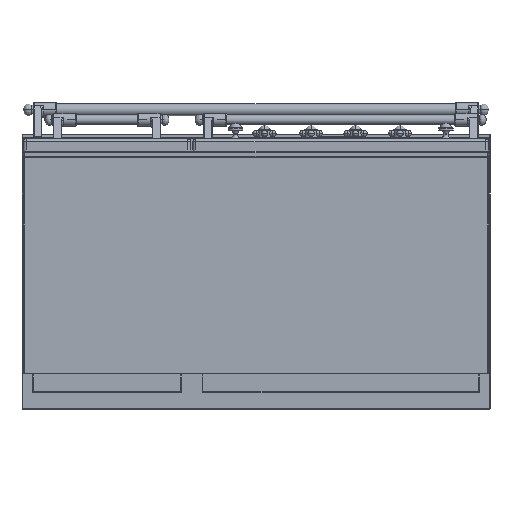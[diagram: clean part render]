
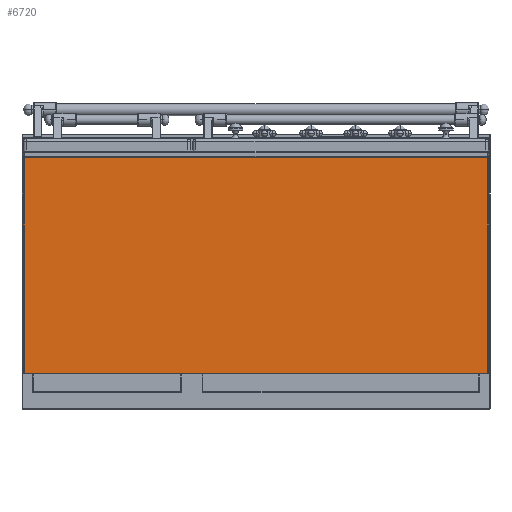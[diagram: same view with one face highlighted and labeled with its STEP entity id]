
A CAD part, front view. The second image highlights one B-rep face of the part: STEP entity #6720.
In plain terms, the highlighted planar face has unit normal (0, -1, 0).
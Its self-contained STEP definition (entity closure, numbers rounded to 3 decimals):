
#6335=DIRECTION('',(0.,0.,1.));
#6336=VECTOR('',#6335,508.);
#6337=CARTESIAN_POINT('',(547.,0.,-254.));
#6338=LINE('',#6337,#6336);
#6339=DIRECTION('',(-1.,0.,0.));
#6340=VECTOR('',#6339,1094.);
#6341=CARTESIAN_POINT('',(547.,0.,-254.));
#6342=LINE('',#6341,#6340);
#6343=DIRECTION('',(0.,0.,-1.));
#6344=VECTOR('',#6343,508.);
#6345=CARTESIAN_POINT('',(-547.,0.,254.));
#6346=LINE('',#6345,#6344);
#6347=DIRECTION('',(-1.,0.,0.));
#6348=VECTOR('',#6347,1094.);
#6349=CARTESIAN_POINT('',(547.,0.,254.));
#6350=LINE('',#6349,#6348);
#6455=CARTESIAN_POINT('',(547.,0.,-254.));
#6456=CARTESIAN_POINT('',(547.,0.,254.));
#6457=VERTEX_POINT('',#6455);
#6458=VERTEX_POINT('',#6456);
#6461=CARTESIAN_POINT('',(-547.,0.,-254.));
#6462=VERTEX_POINT('',#6461);
#6469=CARTESIAN_POINT('',(-547.,0.,254.));
#6470=VERTEX_POINT('',#6469);
#6708=CARTESIAN_POINT('',(-549.,0.,-256.));
#6709=DIRECTION('',(0.,1.,0.));
#6710=DIRECTION('',(0.,0.,1.));
#6711=AXIS2_PLACEMENT_3D('',#6708,#6709,#6710);
#6712=PLANE('',#6711);
#6714=ORIENTED_EDGE('',*,*,#6713,.F.);
#6715=ORIENTED_EDGE('',*,*,#6699,.T.);
#6716=ORIENTED_EDGE('',*,*,#6588,.F.);
#6717=ORIENTED_EDGE('',*,*,#6617,.F.);
#6718=EDGE_LOOP('',(#6714,#6715,#6716,#6717));
#6719=FACE_OUTER_BOUND('',#6718,.F.);
#6588=EDGE_CURVE('',#6470,#6462,#6346,.T.);
#6617=EDGE_CURVE('',#6458,#6470,#6350,.T.);
#6699=EDGE_CURVE('',#6457,#6462,#6342,.T.);
#6713=EDGE_CURVE('',#6457,#6458,#6338,.T.);
#6720=ADVANCED_FACE('',(#6719),#6712,.F.);
